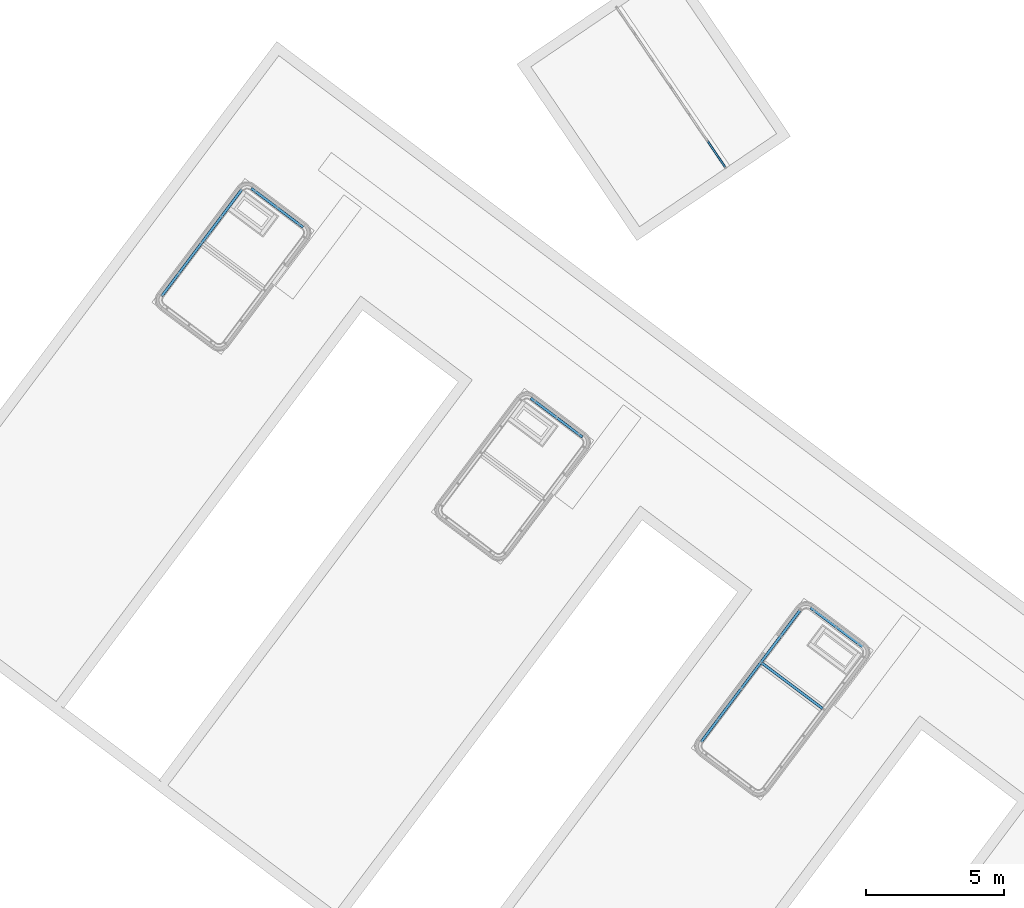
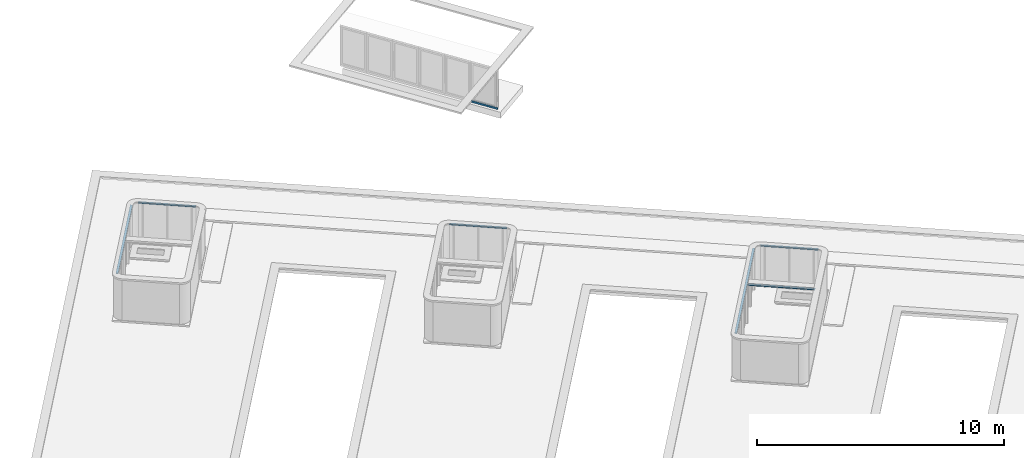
# One storey, part 17 of 28: 6 beams, 1 member, 1 element without a shape of its own.
"""IFC2X3 building model written with IfcOpenShell, lengths in metres."""

import ifcopenshell
import ifcopenshell.guid

model = None  # the IFC model being written
_history = None  # IfcOwnerHistory: only IFC2X3 demands one
_inside = {}  # id of a spatial element -> (the spatial element, [elements in it])
_under = {}  # id of a project, library or spatial element -> (it, [spatial elements below it])
_declared = {}  # id of a project -> (the project, [libraries it declares])
_typed = {}  # id of a type object -> (the type object, [elements of that type])
_made_of = {}  # id of a material, layer set ... -> (it, [elements and type objects made of it])


def new_model(schema):
    """Start an empty IFC model of exactly this schema.

    Asked for "IFC4X3", IfcOpenShell would pick the latest addendum, in which some entities
    have other attributes; the version numbers below select the first issue.
    IFC2X3 requires an IfcOwnerHistory on every rooted entity: one is made here for all.
    """
    global model, _history
    if schema == "IFC4X3":
        model = ifcopenshell.file(schema_version=(4, 3, 0, 0))
    else:
        model = ifcopenshell.file(schema=schema)
    _inside.clear()
    _under.clear()
    _declared.clear()
    _typed.clear()
    _made_of.clear()
    _history = None
    if model.schema == "IFC2X3":
        org = make("IfcOrganization", Name="unknown")
        user = make(
            "IfcPersonAndOrganization",
            ThePerson=make("IfcPerson", FamilyName="unknown"),
            TheOrganization=org,
        )
        app = make(
            "IfcApplication",
            ApplicationDeveloper=org,
            Version="unknown",
            ApplicationFullName="unknown",
            ApplicationIdentifier="unknown",
        )
        _history = make(
            "IfcOwnerHistory",
            OwningUser=user,
            OwningApplication=app,
            ChangeAction="ADDED",
            CreationDate=0,
        )
    return model


def make(cls, **values):
    """One entity of the class cls with the attributes given. An attribute that is None is left unset."""
    return model.create_entity(
        cls, **{name: value for name, value in values.items() if value is not None}
    )


def entity(cls, *values):
    """Any entity or typed value of the class cls, its attributes in the order of the schema. None: left unset."""
    e = model.create_entity(cls)
    for i, value in enumerate(values):
        if value is not None:
            e[i] = value
    return e


def rooted(cls, **values):
    """An entity with a GlobalId (a new one), such as an element, a storey or a relation."""
    return make(cls, GlobalId=ifcopenshell.guid.new(), OwnerHistory=_history, **values)


def si_unit(unit_type, name, prefix=None):
    """IfcSIUnit, for example si_unit("LENGTHUNIT", "METRE", prefix="MILLI")."""
    return make("IfcSIUnit", UnitType=unit_type, Prefix=prefix, Name=name)


def converted_unit(unit_type, name, factor, base, dimensions=None, offset=None):
    """IfcConversionBasedUnit, such as the inch: factor (a typed value) times the base unit."""
    return make(
        "IfcConversionBasedUnit"
        if offset is None
        else "IfcConversionBasedUnitWithOffset",
        ConversionOffset=offset,
        Dimensions=None
        if dimensions is None
        else entity("IfcDimensionalExponents", *dimensions),
        UnitType=unit_type,
        Name=name,
        ConversionFactor=make(
            "IfcMeasureWithUnit", ValueComponent=factor, UnitComponent=base
        ),
    )


def derived_unit(unit_type, elements):
    """IfcDerivedUnit: a product of units, each with its exponent."""
    return make(
        "IfcDerivedUnit",
        Elements=[
            make("IfcDerivedUnitElement", Unit=unit, Exponent=power)
            for unit, power in elements
        ],
        UnitType=unit_type,
    )


def assignment(units):
    """IfcUnitAssignment: the units of a project."""
    return None if units is None else make("IfcUnitAssignment", Units=units)


def point(xyz):
    """IfcCartesianPoint."""
    return None if xyz is None else make("IfcCartesianPoint", Coordinates=xyz)


def direction(xyz):
    """IfcDirection."""
    return None if xyz is None else make("IfcDirection", DirectionRatios=xyz)


def frame(location, z_axis=None, x_axis=None):
    """IfcAxis2Placement3D, a coordinate frame: its origin and axes. An axis left out is left unset."""
    return make(
        "IfcAxis2Placement3D",
        Location=point(location),
        Axis=direction(z_axis),
        RefDirection=direction(x_axis),
    )


def frame_2d(location, x_axis=None):
    """IfcAxis2Placement2D, a coordinate frame in the plane: its origin and x axis."""
    return make(
        "IfcAxis2Placement2D", Location=point(location), RefDirection=direction(x_axis)
    )


def origin():
    """The frame at (0, 0, 0) with its axes left unset."""
    return frame((0.0, 0.0, 0.0))


def origin_2d_with_axis():
    """The frame at (0, 0) in the plane with the x axis (1, 0) written out."""
    return frame_2d((0.0, 0.0), x_axis=(1.0, 0.0))


def place(relative_to, where):
    """IfcLocalPlacement: puts the frame where relative to a parent placement (None: the world)."""
    return make(
        "IfcLocalPlacement", PlacementRelTo=relative_to, RelativePlacement=where
    )


def context(
    kind, dimensions, precision=None, world=None, true_north=None, identifier=None
):
    """IfcGeometricRepresentationContext, for example the 3D "Model" context."""
    return make(
        "IfcGeometricRepresentationContext",
        ContextIdentifier=identifier,
        ContextType=kind,
        CoordinateSpaceDimension=dimensions,
        Precision=precision,
        WorldCoordinateSystem=world,
        TrueNorth=true_north,
    )


def subcontext(parent, identifier, kind, view, scale=None):
    """IfcGeometricRepresentationSubContext, for example "Body" below "Model"."""
    return make(
        "IfcGeometricRepresentationSubContext",
        ContextIdentifier=identifier,
        ContextType=kind,
        ParentContext=parent,
        TargetScale=scale,
        TargetView=view,
    )


def project(units=None, contexts=None):
    """IfcProject with its units and contexts."""
    return rooted(
        "IfcProject",
        Name="project",
        RepresentationContexts=contexts,
        UnitsInContext=assignment(units),
    )


def spatial(cls, under=None, at=None, **own):
    """A site, building, storey or space (cls), placed at a placement, below another one or the project."""
    s = rooted(cls, ObjectPlacement=at, **own)
    if under is not None:
        _under.setdefault(under.id(), (under, []))[1].append(s)
    return s


def polyline(points):
    """IfcPolyline through the points."""
    return make("IfcPolyline", Points=[point(p) for p in points])


def circle_curve(where, radius):
    """IfcCircle in the frame where."""
    return make("IfcCircle", Position=where, Radius=radius)


def parameter(value):
    """IfcParameterValue: where a trimmed curve begins or ends, as a parameter of its basis curve."""
    return model.create_entity("IfcParameterValue", value)


def trimmed(basis, trim1, trim2, sense, master):
    """IfcTrimmedCurve: the piece of a basis curve between two trims."""
    return make(
        "IfcTrimmedCurve",
        BasisCurve=basis,
        Trim1=trim1,
        Trim2=trim2,
        SenseAgreement=sense,
        MasterRepresentation=master,
    )


def segment(curve, same_sense, transition):
    """IfcCompositeCurveSegment."""
    return make(
        "IfcCompositeCurveSegment",
        Transition=transition,
        SameSense=same_sense,
        ParentCurve=curve,
    )


def composite_curve(segments, self_intersect=None):
    """IfcCompositeCurve: segments joined end to end."""
    return make("IfcCompositeCurve", Segments=segments, SelfIntersect=self_intersect)


def profile(cls, at=None, kind="AREA", **sizes):
    """A parametric profile (cls). Its sizes go by their IFC names, for example OverallWidth=200.0."""
    return make(cls, ProfileType=kind, Position=at, **sizes)


def rectangle(**sizes):
    """IfcRectangleProfileDef."""
    return profile("IfcRectangleProfileDef", **sizes)


def outline(outer, holes=None, kind="AREA"):
    """IfcArbitraryClosedProfileDef: a profile drawn as a closed curve; with holes, ...WithVoids."""
    if holes is None:
        return make("IfcArbitraryClosedProfileDef", ProfileType=kind, OuterCurve=outer)
    return make(
        "IfcArbitraryProfileDefWithVoids",
        ProfileType=kind,
        OuterCurve=outer,
        InnerCurves=holes,
    )


def extrude(swept, where, along, depth):
    """IfcExtrudedAreaSolid: the profile swept, set in the frame where, extruded along a direction by depth."""
    return make(
        "IfcExtrudedAreaSolid",
        SweptArea=swept,
        Position=where,
        ExtrudedDirection=direction(along),
        Depth=depth,
    )


def shape(context_of_items, identifier, shape_type, items):
    """IfcShapeRepresentation: the items that make up one representation, for example the "Body"."""
    return make(
        "IfcShapeRepresentation",
        ContextOfItems=context_of_items,
        RepresentationIdentifier=identifier,
        RepresentationType=shape_type,
        Items=items,
    )


def source(mapping_origin, context_of_items, identifier, shape_type, items):
    """IfcRepresentationMap: a shape defined once, which mapped items show again and again."""
    return make(
        "IfcRepresentationMap",
        MappingOrigin=mapping_origin,
        MappedRepresentation=shape(context_of_items, identifier, shape_type, items),
    )


def transform(
    local_origin,
    x_axis=None,
    y_axis=None,
    z_axis=None,
    scale=None,
    scale2=None,
    scale3=None,
    uniform=True,
):
    """IfcCartesianTransformationOperator3D, or its non-uniform kind. x_axis, y_axis, z_axis: its Axis1, 2, 3."""
    if uniform:
        return make(
            "IfcCartesianTransformationOperator3D",
            Axis1=direction(x_axis),
            Axis2=direction(y_axis),
            LocalOrigin=point(local_origin),
            Scale=scale,
            Axis3=direction(z_axis),
        )
    return make(
        "IfcCartesianTransformationOperator3DnonUniform",
        Axis1=direction(x_axis),
        Axis2=direction(y_axis),
        LocalOrigin=point(local_origin),
        Scale=scale,
        Axis3=direction(z_axis),
        Scale2=scale2,
        Scale3=scale3,
    )


def mapped(mapping_source, mapping_target):
    """IfcMappedItem: shows the shape of a source again, moved by a transform."""
    return make(
        "IfcMappedItem", MappingSource=mapping_source, MappingTarget=mapping_target
    )


def material(Name=None, Category=None):
    """IfcMaterial."""
    return make("IfcMaterial", Name=Name, Category=Category)


def made_of(thing, what):
    """Note that an element or type object is made of a material, layer set ...; save() writes the relation."""
    if what is not None:
        _made_of.setdefault(what.id(), (what, []))[1].append(thing)
    return thing


def type_object(cls, material=None, **own):
    """A type object (cls), such as IfcWallType, which elements share."""
    return made_of(rooted(cls, **own), material)


def type_shapes(of_type, sources):
    """Give a type object the sources (RepresentationMaps) that its elements show as mapped items."""
    of_type.RepresentationMaps = sources


def element(
    cls,
    number,
    at=None,
    inside=None,
    cuts=None,
    type_object=None,
    material=None,
    context=None,
    identifier="Body",
    shape_type=None,
    held_by="IfcProductDefinitionShape",
    body=None,
    shapes=None,
    **own,
):
    """One element of the class cls, such as IfcWall. Its Tag is "e" and its number.

    at: its placement. inside: the storey or other place that contains it. cuts: it is an
    opening in that element (IfcRelVoidsElement). A single representation is given by context,
    identifier, shape_type and body (its items); several are given by shapes. held_by: the class
    of the entity that holds the representations. save() writes the other relations.
    """
    e = rooted(cls, Tag="e%d" % number, ObjectPlacement=at, **own)
    if body is not None:
        shapes = [shape(context, identifier, shape_type, body)]
    if shapes is not None:
        e.Representation = make(held_by, Representations=shapes)
    if inside is not None:
        _inside.setdefault(inside.id(), (inside, []))[1].append(e)
    if cuts is not None:
        rooted(
            "IfcRelVoidsElement", RelatingBuildingElement=cuts, RelatedOpeningElement=e
        )
    if type_object is not None:
        _typed.setdefault(type_object.id(), (type_object, []))[1].append(e)
    return made_of(e, material)


def aggregate(whole, parts):
    """IfcRelAggregates: a whole, such as a stair, and the parts it consists of."""
    return rooted("IfcRelAggregates", RelatingObject=whole, RelatedObjects=parts)


def save(model, path):
    """Write the relations noted so far, then the file.

    IfcRelAggregates (storeys below a building ...), IfcRelContainedInSpatialStructure (elements
    in a storey), IfcRelDefinesByType, IfcRelAssociatesMaterial and IfcRelDeclares: one each for
    every whole, place, type object, material and project.
    """
    for whole, parts in _under.values():
        aggregate(whole, parts)
    for where, things in _inside.values():
        rooted(
            "IfcRelContainedInSpatialStructure",
            RelatedElements=things,
            RelatingStructure=where,
        )
    for kind, things in _typed.values():
        rooted("IfcRelDefinesByType", RelatedObjects=things, RelatingType=kind)
    for what, things in _made_of.values():
        rooted("IfcRelAssociatesMaterial", RelatedObjects=things, RelatingMaterial=what)
    for by, libraries in _declared.values():
        rooted("IfcRelDeclares", RelatingContext=by, RelatedDefinitions=libraries)
    model.write(path)


model = new_model("IFC2X3")

# Units and contexts
model_context = context("Model", 3, precision=1e-05, world=origin(), true_north=direction((6.123031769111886e-17, 1.0)))
body_context = subcontext(model_context, "Body", "Model", "MODEL_VIEW")
ifc_project = project(units=[si_unit("LENGTHUNIT", "METRE"), si_unit("AREAUNIT", "SQUARE_METRE"), si_unit("VOLUMEUNIT", "CUBIC_METRE"), converted_unit("PLANEANGLEUNIT", "DEGREE", entity("IfcRatioMeasure", 0.017453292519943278), si_unit("PLANEANGLEUNIT", "RADIAN"), dimensions=[0, 0, 0, 0, 0, 0, 0]), si_unit("MASSUNIT", "GRAM", prefix="KILO"), derived_unit("MASSDENSITYUNIT", [(si_unit("MASSUNIT", "GRAM", prefix="KILO"), 1), (si_unit("LENGTHUNIT", "METRE"), -3)]), derived_unit("IONCONCENTRATIONUNIT", [(si_unit("MASSUNIT", "GRAM", prefix="KILO"), 1), (si_unit("LENGTHUNIT", "METRE"), -3)]), derived_unit("MOMENTOFINERTIAUNIT", [(si_unit("LENGTHUNIT", "METRE"), 4)]), si_unit("TIMEUNIT", "SECOND"), si_unit("FREQUENCYUNIT", "HERTZ"), si_unit("THERMODYNAMICTEMPERATUREUNIT", "DEGREE_CELSIUS"), derived_unit("THERMALTRANSMITTANCEUNIT", [(si_unit("MASSUNIT", "GRAM", prefix="KILO"), 1), (si_unit("THERMODYNAMICTEMPERATUREUNIT", "KELVIN"), -1), (si_unit("TIMEUNIT", "SECOND"), -3)]), derived_unit("THERMALCONDUCTANCEUNIT", [(si_unit("MASSUNIT", "GRAM", prefix="KILO"), 1), (si_unit("THERMODYNAMICTEMPERATUREUNIT", "KELVIN"), -1), (si_unit("TIMEUNIT", "SECOND"), -3), (si_unit("LENGTHUNIT", "METRE"), 1)]), derived_unit("VOLUMETRICFLOWRATEUNIT", [(si_unit("LENGTHUNIT", "METRE"), 3), (si_unit("TIMEUNIT", "SECOND"), -1)]), derived_unit("MASSFLOWRATEUNIT", [(si_unit("MASSUNIT", "GRAM", prefix="KILO"), 1), (si_unit("TIMEUNIT", "SECOND"), -1)]), derived_unit("ROTATIONALFREQUENCYUNIT", [(si_unit("TIMEUNIT", "SECOND"), -1)]), si_unit("ELECTRICCURRENTUNIT", "AMPERE"), si_unit("ELECTRICVOLTAGEUNIT", "VOLT"), si_unit("POWERUNIT", "WATT"), si_unit("FORCEUNIT", "NEWTON", prefix="KILO"), si_unit("ILLUMINANCEUNIT", "LUX"), si_unit("LUMINOUSFLUXUNIT", "LUMEN"), si_unit("LUMINOUSINTENSITYUNIT", "CANDELA"), derived_unit("USERDEFINED", [(si_unit("MASSUNIT", "GRAM", prefix="KILO"), -1), (si_unit("LENGTHUNIT", "METRE"), -2), (si_unit("TIMEUNIT", "SECOND"), 3), (si_unit("LUMINOUSFLUXUNIT", "LUMEN"), 1)]), derived_unit("USERDEFINED", [(si_unit("MASSUNIT", "GRAM", prefix="KILO"), 1), (si_unit("TIMEUNIT", "SECOND"), -3), (si_unit("LENGTHUNIT", "METRE"), 3), (si_unit("ELECTRICCURRENTUNIT", "AMPERE"), -2)]), derived_unit("SOUNDPOWERUNIT", [(si_unit("MASSUNIT", "GRAM", prefix="KILO"), 1), (si_unit("TIMEUNIT", "SECOND"), -3), (si_unit("LENGTHUNIT", "METRE"), 2)]), derived_unit("SOUNDPRESSUREUNIT", [(si_unit("MASSUNIT", "GRAM", prefix="KILO"), 1), (si_unit("LENGTHUNIT", "METRE"), -1), (si_unit("TIMEUNIT", "SECOND"), -2)]), derived_unit("LINEARVELOCITYUNIT", [(si_unit("LENGTHUNIT", "METRE"), 1), (si_unit("TIMEUNIT", "SECOND"), -1)]), si_unit("PRESSUREUNIT", "PASCAL"), derived_unit("USERDEFINED", [(si_unit("MASSUNIT", "GRAM", prefix="KILO"), 1), (si_unit("LENGTHUNIT", "METRE"), -2), (si_unit("TIMEUNIT", "SECOND"), -2)]), derived_unit("LINEARFORCEUNIT", [(si_unit("MASSUNIT", "GRAM", prefix="KILO"), 1), (si_unit("TIMEUNIT", "SECOND"), -2)]), derived_unit("PLANARFORCEUNIT", [(si_unit("MASSUNIT", "GRAM", prefix="KILO"), 1), (si_unit("LENGTHUNIT", "METRE"), -1), (si_unit("TIMEUNIT", "SECOND"), -2)]), derived_unit("SPECIFICHEATCAPACITYUNIT", [(si_unit("THERMODYNAMICTEMPERATUREUNIT", "KELVIN"), -1), (si_unit("LENGTHUNIT", "METRE"), 2), (si_unit("TIMEUNIT", "SECOND"), -2)]), derived_unit("HEATINGVALUEUNIT", [(si_unit("LENGTHUNIT", "METRE"), 2), (si_unit("TIMEUNIT", "SECOND"), -2)]), derived_unit("VAPORPERMEABILITYUNIT", [(si_unit("LENGTHUNIT", "METRE"), -1), (si_unit("TIMEUNIT", "SECOND"), 1)]), derived_unit("DYNAMICVISCOSITYUNIT", [(si_unit("MASSUNIT", "GRAM", prefix="KILO"), 1), (si_unit("TIMEUNIT", "SECOND"), -1), (si_unit("LENGTHUNIT", "METRE"), -1)]), derived_unit("THERMALEXPANSIONCOEFFICIENTUNIT", [(si_unit("THERMODYNAMICTEMPERATUREUNIT", "KELVIN"), -1)]), derived_unit("MODULUSOFELASTICITYUNIT", [(si_unit("MASSUNIT", "GRAM", prefix="KILO"), 1), (si_unit("LENGTHUNIT", "METRE"), -1), (si_unit("TIMEUNIT", "SECOND"), -2)]), derived_unit("ISOTHERMALMOISTURECAPACITYUNIT", [(si_unit("LENGTHUNIT", "METRE"), 3), (si_unit("MASSUNIT", "GRAM", prefix="KILO"), -1)]), derived_unit("MOISTUREDIFFUSIVITYUNIT", [(si_unit("TIMEUNIT", "SECOND"), -1), (si_unit("LENGTHUNIT", "METRE"), 2)])], contexts=[model_context])

# Site, building, storey
site_placement = place(None, frame((0.0, 0.0, 235.0), z_axis=(0.0, 0.0, 1.0), x_axis=(-0.7996477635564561, 0.6004693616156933, 0.0)))
site = spatial("IfcSite", under=ifc_project, at=site_placement, Name="Default", CompositionType="ELEMENT")
building_placement = place(site_placement, origin())
building = spatial("IfcBuilding", under=site, at=building_placement, CompositionType="ELEMENT")
storey_placement = place(building_placement, frame((0.0, 0.0, 3.400000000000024)))
storey = spatial("IfcBuildingStorey", under=building, at=storey_placement, Name="PC- Coberta STR", CompositionType="ELEMENT", Elevation=3.400000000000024)

# Curtain wall, member
curtain_wall_type = type_object("IfcCurtainWallType", Name="Muro cortina:MC- EXT- MC8- Biblio", PredefinedType="NOTDEFINED")
curtain_wall_placement = place(storey_placement, frame((0.0, 0.0, -3.400000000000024)))
curtain_wall = element("IfcCurtainWall", 1, at=curtain_wall_placement, inside=storey, type_object=curtain_wall_type, Name="Muro cortina:MC- EXT- MC8- Biblio", ObjectType="Muro cortina:MC- EXT- MC8- Biblio")
ifc_material_1 = material(Name="_Alumini- T1- Perfil")
member_type = type_object("IfcMemberType", Name="Montante rectangular:MC- Alu- 52x80 cm- Fa pista- inferior", PredefinedType="MULLION", material=ifc_material_1)
shared_shape = source(origin(), body_context, "Body", "SweptSolid", [
    extrude(rectangle(XDim=0.06000000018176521, YDim=0.085, at=origin_2d_with_axis()), frame((-0.0425, -0.030000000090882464, -1.1999999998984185), z_axis=(0.0, 0.0, 1.0), x_axis=(0.0, -1.0, 0.0)), (0.0, 0.0, 1.0), 1.1999999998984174),
])
type_shapes(member_type, [shared_shape])
member_placement = place(curtain_wall_placement, frame((58.94741241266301, -48.51196922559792, 3.950000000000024), z_axis=(-0.9460037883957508, 0.3241555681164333, 0.0), x_axis=(0.0, 0.0, -1.0)))
member = element("IfcMember", 2, at=member_placement, type_object=member_type, material=ifc_material_1, Name="Montante rectangular:MC- Alu- 52x80 cm- Fa pista- inferior", ObjectType="Montante rectangular:MC- Alu- 52x80 cm- Fa pista- inferior", context=body_context, shape_type="MappedRepresentation", body=[
    mapped(shared_shape, transform((0.0, 0.0, 0.0), scale=1.0)),
])
aggregate(curtain_wall, [member])

# Beams
ifc_material_2 = material(Name="Metal - Acero - 345 MPa")
beam_type = type_object("IfcBeamType", Name="STR- V- Acer- RHS- Rectangular- T1:100x50RHS", PredefinedType="NOTDEFINED")
beam_1_placement = place(storey_placement, frame((57.259195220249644, -37.59678699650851, 2.451595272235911), z_axis=(0.0, 0.0, 1.0), x_axis=(-1.0, 0.0, 0.0)))
element("IfcBeam", 3, at=beam_1_placement, inside=storey, type_object=beam_type, material=ifc_material_2, Name="STR- V- Acer- RHS- Rectangular- T1:100x50RHS", ObjectType="STR- V- Acer- RHS- Rectangular- T1:100x50RHS", context=body_context, shape_type="SweptSolid", body=[
    extrude(outline(composite_curve([segment(trimmed(circle_curve(frame_2d((-0.019000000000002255, -0.04399999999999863), x_axis=(1.0, 0.0)), 0.006), [parameter(180.0000000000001)], [parameter(269.99999999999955)], True, "PARAMETER"), True, "CONTINUOUS"), segment(polyline([(-0.0190000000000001, -0.04999999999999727), (0.018999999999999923, -0.04999999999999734)]), True, "CONTINUOUS"), segment(trimmed(circle_curve(frame_2d((0.018999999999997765, -0.0439999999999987), x_axis=(1.0, 0.0)), 0.006), [parameter(269.99999999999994)], [parameter(1.0177774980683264e-13)], True, "PARAMETER"), True, "CONTINUOUS"), segment(polyline([(0.02499999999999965, -0.04399999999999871), (0.02499999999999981, 0.04400000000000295)]), True, "CONTINUOUS"), segment(trimmed(circle_curve(frame_2d((0.018999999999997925, 0.04400000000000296), x_axis=(1.0, 0.0)), 0.006), [parameter(359.9999999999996)], [parameter(89.99999999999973)], True, "PARAMETER"), True, "CONTINUOUS"), segment(polyline([(0.019000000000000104, 0.05000000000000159), (-0.019000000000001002, 0.05000000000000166)]), True, "CONTINUOUS"), segment(trimmed(circle_curve(frame_2d((-0.019000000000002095, 0.04400000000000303), x_axis=(1.0, 0.0)), 0.006), [parameter(90.00000000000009)], [parameter(180.00000000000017)], True, "PARAMETER"), True, "CONTINUOUS"), segment(polyline([(-0.025000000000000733, 0.04400000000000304), (-0.025000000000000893, -0.043999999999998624)]), True, "CONTINUOUS")], self_intersect=False), holes=[composite_curve([segment(polyline([(0.01899999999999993, -0.046999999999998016), (-0.019000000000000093, -0.046999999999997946)]), True, "CONTINUOUS"), segment(trimmed(circle_curve(frame_2d((-0.019000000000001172, -0.04399999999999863), x_axis=(1.0, 0.0)), 0.003), [parameter(179.99999999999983)], [parameter(269.9999999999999)], True, "PARAMETER"), False, "CONTINUOUS"), segment(polyline([(-0.022000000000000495, -0.043999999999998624), (-0.022000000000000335, 0.04399999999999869)]), True, "CONTINUOUS"), segment(trimmed(circle_curve(frame_2d((-0.019000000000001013, 0.043999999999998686), x_axis=(1.0, 0.0)), 0.003), [parameter(90.00000000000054)], [parameter(180.0000000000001)], True, "PARAMETER"), False, "CONTINUOUS"), segment(polyline([(-0.018999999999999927, 0.04700000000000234), (0.018999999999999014, 0.04700000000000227)]), True, "CONTINUOUS"), segment(trimmed(circle_curve(frame_2d((0.018999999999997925, 0.04399999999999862), x_axis=(1.0, 0.0)), 0.003), [parameter(0.0)], [parameter(90.00000000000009)], True, "PARAMETER"), False, "CONTINUOUS"), segment(polyline([(0.021999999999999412, 0.04399999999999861), (0.021999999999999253, -0.04399999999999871)]), True, "CONTINUOUS"), segment(trimmed(circle_curve(frame_2d((0.018999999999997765, -0.0439999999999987), x_axis=(1.0, 0.0)), 0.003), [parameter(270.00000000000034)], [parameter(5.088887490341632e-13)], True, "PARAMETER"), False, "CONTINUOUS")], self_intersect=False)]), frame((-2.3508866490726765, -0.05159527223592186, -0.026595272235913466), z_axis=(1.0, 0.0, 0.0), x_axis=(0.0, 0.0, 1.0)), (0.0, 0.0, 1.0), 2.350886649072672),
])
beam_2_placement = place(storey_placement, frame((72.50859017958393, -37.30519175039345, 2.3984047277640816), z_axis=(0.0, 0.0, 1.0), x_axis=(0.0, 1.0, 0.0)))
element("IfcBeam", 4, at=beam_2_placement, inside=storey, type_object=beam_type, material=ifc_material_2, Name="STR- V- Acer- RHS- Rectangular- T1:100x50RHS", ObjectType="STR- V- Acer- RHS- Rectangular- T1:100x50RHS", context=body_context, shape_type="SweptSolid", body=[
    extrude(outline(composite_curve([segment(trimmed(circle_curve(frame_2d((-0.019000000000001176, -0.04399999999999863), x_axis=(1.0, 0.0)), 0.006), [parameter(180.0000000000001)], [parameter(269.99999999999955)], True, "PARAMETER"), True, "CONTINUOUS"), segment(polyline([(-0.0190000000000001, -0.04999999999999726), (0.01899999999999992, -0.04999999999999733)]), True, "CONTINUOUS"), segment(trimmed(circle_curve(frame_2d((0.018999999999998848, -0.0439999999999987), x_axis=(1.0, 0.0)), 0.006), [parameter(269.99999999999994)], [parameter(1.0177774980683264e-13)], True, "PARAMETER"), True, "CONTINUOUS"), segment(polyline([(0.02499999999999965, -0.04399999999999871), (0.02499999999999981, 0.04400000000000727)]), True, "CONTINUOUS"), segment(trimmed(circle_curve(frame_2d((0.018999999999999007, 0.044000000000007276), x_axis=(1.0, 0.0)), 0.006), [parameter(359.9999999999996)], [parameter(89.99999999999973)], True, "PARAMETER"), True, "CONTINUOUS"), segment(polyline([(0.0190000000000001, 0.05000000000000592), (-0.019000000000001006, 0.05000000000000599)]), True, "CONTINUOUS"), segment(trimmed(circle_curve(frame_2d((-0.019000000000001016, 0.044000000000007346), x_axis=(1.0, 0.0)), 0.006), [parameter(90.00000000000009)], [parameter(180.00000000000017)], True, "PARAMETER"), True, "CONTINUOUS"), segment(polyline([(-0.025000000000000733, 0.04400000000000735), (-0.025000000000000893, -0.043999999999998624)]), True, "CONTINUOUS")], self_intersect=False), holes=[composite_curve([segment(polyline([(0.018999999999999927, -0.046999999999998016), (-0.019000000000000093, -0.046999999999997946)]), True, "CONTINUOUS"), segment(trimmed(circle_curve(frame_2d((-0.01900000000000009, -0.04399999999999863), x_axis=(1.0, 0.0)), 0.003), [parameter(179.99999999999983)], [parameter(269.9999999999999)], True, "PARAMETER"), False, "CONTINUOUS"), segment(polyline([(-0.02200000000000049, -0.043999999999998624), (-0.022000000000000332, 0.04400000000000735)]), True, "CONTINUOUS"), segment(trimmed(circle_curve(frame_2d((-0.01899999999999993, 0.044000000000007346), x_axis=(1.0, 0.0)), 0.003), [parameter(90.00000000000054)], [parameter(180.0000000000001)], True, "PARAMETER"), False, "CONTINUOUS"), segment(polyline([(-0.018999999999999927, 0.04700000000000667), (0.01899999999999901, 0.0470000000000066)]), True, "CONTINUOUS"), segment(trimmed(circle_curve(frame_2d((0.018999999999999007, 0.044000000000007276), x_axis=(1.0, 0.0)), 0.003), [parameter(0.0)], [parameter(90.00000000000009)], True, "PARAMETER"), False, "CONTINUOUS"), segment(polyline([(0.021999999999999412, 0.04400000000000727), (0.021999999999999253, -0.04399999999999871)]), True, "CONTINUOUS"), segment(trimmed(circle_curve(frame_2d((0.018999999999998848, -0.0439999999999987), x_axis=(1.0, 0.0)), 0.003), [parameter(270.00000000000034)], [parameter(5.088887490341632e-13)], True, "PARAMETER"), False, "CONTINUOUS")], self_intersect=False)]), frame((0.0, -0.05159527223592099, 0.02659527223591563), z_axis=(1.0, 0.0, 0.0), x_axis=(0.0, 0.0, 1.0)), (0.0, 0.0, 1.0), 4.846999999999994),
])
beam_3_placement = place(storey_placement, frame((69.95919522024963, -37.59678699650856, 2.451595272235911), z_axis=(0.0, 0.0, 1.0), x_axis=(-1.0, 0.0, 0.0)))
element("IfcBeam", 5, at=beam_3_placement, inside=storey, type_object=beam_type, material=ifc_material_2, Name="STR- V- Acer- RHS- Rectangular- T1:100x50RHS", ObjectType="STR- V- Acer- RHS- Rectangular- T1:100x50RHS", context=body_context, shape_type="SweptSolid", body=[
    extrude(outline(composite_curve([segment(trimmed(circle_curve(frame_2d((-0.019000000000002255, -0.04400000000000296), x_axis=(1.0, 0.0)), 0.006), [parameter(180.0000000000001)], [parameter(269.99999999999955)], True, "PARAMETER"), True, "CONTINUOUS"), segment(polyline([(-0.0190000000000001, -0.05000000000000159), (0.018999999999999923, -0.05000000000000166)]), True, "CONTINUOUS"), segment(trimmed(circle_curve(frame_2d((0.018999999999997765, -0.04400000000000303), x_axis=(1.0, 0.0)), 0.006), [parameter(269.99999999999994)], [parameter(1.0177774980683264e-13)], True, "PARAMETER"), True, "CONTINUOUS"), segment(polyline([(0.02499999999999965, -0.04400000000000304), (0.02499999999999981, 0.043999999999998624)]), True, "CONTINUOUS"), segment(trimmed(circle_curve(frame_2d((0.018999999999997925, 0.04399999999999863), x_axis=(1.0, 0.0)), 0.006), [parameter(359.9999999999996)], [parameter(89.99999999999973)], True, "PARAMETER"), True, "CONTINUOUS"), segment(polyline([(0.019000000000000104, 0.04999999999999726), (-0.019000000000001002, 0.04999999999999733)]), True, "CONTINUOUS"), segment(trimmed(circle_curve(frame_2d((-0.019000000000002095, 0.0439999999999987), x_axis=(1.0, 0.0)), 0.006), [parameter(90.00000000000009)], [parameter(180.00000000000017)], True, "PARAMETER"), True, "CONTINUOUS"), segment(polyline([(-0.025000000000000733, 0.04399999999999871), (-0.025000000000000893, -0.04400000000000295)]), True, "CONTINUOUS")], self_intersect=False), holes=[composite_curve([segment(polyline([(0.01899999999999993, -0.047000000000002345), (-0.019000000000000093, -0.047000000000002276)]), True, "CONTINUOUS"), segment(trimmed(circle_curve(frame_2d((-0.019000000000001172, -0.04400000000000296), x_axis=(1.0, 0.0)), 0.003), [parameter(179.99999999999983)], [parameter(269.9999999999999)], True, "PARAMETER"), False, "CONTINUOUS"), segment(polyline([(-0.022000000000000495, -0.04400000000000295), (-0.022000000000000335, 0.04399999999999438)]), True, "CONTINUOUS"), segment(trimmed(circle_curve(frame_2d((-0.019000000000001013, 0.04399999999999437), x_axis=(1.0, 0.0)), 0.003), [parameter(90.00000000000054)], [parameter(180.0000000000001)], True, "PARAMETER"), False, "CONTINUOUS"), segment(polyline([(-0.018999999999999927, 0.04699999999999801), (0.018999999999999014, 0.04699999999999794)]), True, "CONTINUOUS"), segment(trimmed(circle_curve(frame_2d((0.018999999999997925, 0.0439999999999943), x_axis=(1.0, 0.0)), 0.003), [parameter(0.0)], [parameter(90.00000000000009)], True, "PARAMETER"), False, "CONTINUOUS"), segment(polyline([(0.021999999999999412, 0.043999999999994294), (0.021999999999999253, -0.04400000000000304)]), True, "CONTINUOUS"), segment(trimmed(circle_curve(frame_2d((0.018999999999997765, -0.04400000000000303), x_axis=(1.0, 0.0)), 0.003), [parameter(270.00000000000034)], [parameter(5.088887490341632e-13)], True, "PARAMETER"), False, "CONTINUOUS")], self_intersect=False)]), frame((-2.3508866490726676, -0.05159527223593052, -0.026595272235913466), z_axis=(1.0, 0.0, 0.0), x_axis=(0.0, 0.0, 1.0)), (0.0, 0.0, 1.0), 2.350886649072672),
])
beam_4_placement = place(storey_placement, frame((47.10845085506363, -37.30919173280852, 2.398404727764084), z_axis=(0.0, 0.0, 1.0), x_axis=(0.0, 1.0, 0.0)))
element("IfcBeam", 6, at=beam_4_placement, inside=storey, type_object=beam_type, material=ifc_material_2, Name="STR- V- Acer- RHS- Rectangular- T1:100x50RHS", ObjectType="STR- V- Acer- RHS- Rectangular- T1:100x50RHS", context=body_context, shape_type="SweptSolid", body=[
    extrude(outline(composite_curve([segment(trimmed(circle_curve(frame_2d((-0.01900000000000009, -0.043999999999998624), x_axis=(1.0, 0.0)), 0.006), [parameter(180.0000000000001)], [parameter(269.99999999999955)], True, "PARAMETER"), True, "CONTINUOUS"), segment(polyline([(-0.018999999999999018, -0.04999999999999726), (0.019000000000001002, -0.04999999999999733)]), True, "CONTINUOUS"), segment(trimmed(circle_curve(frame_2d((0.01899999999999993, -0.04399999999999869), x_axis=(1.0, 0.0)), 0.006), [parameter(269.99999999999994)], [parameter(1.0177774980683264e-13)], True, "PARAMETER"), True, "CONTINUOUS"), segment(polyline([(0.025000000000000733, -0.0439999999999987), (0.025000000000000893, 0.04400000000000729)]), True, "CONTINUOUS"), segment(trimmed(circle_curve(frame_2d((0.01900000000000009, 0.0440000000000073), x_axis=(1.0, 0.0)), 0.006), [parameter(359.9999999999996)], [parameter(89.99999999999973)], True, "PARAMETER"), True, "CONTINUOUS"), segment(polyline([(0.019000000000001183, 0.05000000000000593), (-0.01899999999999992, 0.050000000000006)]), True, "CONTINUOUS"), segment(trimmed(circle_curve(frame_2d((-0.01899999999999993, 0.04400000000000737), x_axis=(1.0, 0.0)), 0.006), [parameter(90.00000000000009)], [parameter(180.00000000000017)], True, "PARAMETER"), True, "CONTINUOUS"), segment(polyline([(-0.02499999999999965, 0.044000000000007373), (-0.02499999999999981, -0.04399999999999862)]), True, "CONTINUOUS")], self_intersect=False), holes=[composite_curve([segment(polyline([(0.01900000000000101, -0.046999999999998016), (-0.01899999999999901, -0.046999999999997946)]), True, "CONTINUOUS"), segment(trimmed(circle_curve(frame_2d((-0.018999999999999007, -0.043999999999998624), x_axis=(1.0, 0.0)), 0.003), [parameter(179.99999999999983)], [parameter(269.9999999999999)], True, "PARAMETER"), False, "CONTINUOUS"), segment(polyline([(-0.02199999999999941, -0.04399999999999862), (-0.02199999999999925, 0.044000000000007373)]), True, "CONTINUOUS"), segment(trimmed(circle_curve(frame_2d((-0.018999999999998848, 0.04400000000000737), x_axis=(1.0, 0.0)), 0.003), [parameter(90.00000000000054)], [parameter(180.0000000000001)], True, "PARAMETER"), False, "CONTINUOUS"), segment(polyline([(-0.018999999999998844, 0.04700000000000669), (0.019000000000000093, 0.04700000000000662)]), True, "CONTINUOUS"), segment(trimmed(circle_curve(frame_2d((0.01900000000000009, 0.0440000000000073), x_axis=(1.0, 0.0)), 0.003), [parameter(0.0)], [parameter(90.00000000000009)], True, "PARAMETER"), False, "CONTINUOUS"), segment(polyline([(0.022000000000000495, 0.04400000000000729), (0.022000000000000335, -0.0439999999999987)]), True, "CONTINUOUS"), segment(trimmed(circle_curve(frame_2d((0.01899999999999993, -0.04399999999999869), x_axis=(1.0, 0.0)), 0.003), [parameter(270.00000000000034)], [parameter(5.088887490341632e-13)], True, "PARAMETER"), False, "CONTINUOUS")], self_intersect=False)]), frame((0.0, -0.05159527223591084, 0.02659527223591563), z_axis=(1.0, 0.0, 0.0), x_axis=(0.0, 0.0, 1.0)), (0.0, 0.0, 1.0), 6.036931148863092),
])
beam_5_placement = place(storey_placement, frame((44.54306542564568, -37.610855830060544, 2.4515952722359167), z_axis=(0.0, 0.0, 1.0), x_axis=(-1.0, 0.0, 0.0)))
element("IfcBeam", 7, at=beam_5_placement, inside=storey, type_object=beam_type, material=ifc_material_2, Name="STR- V- Acer- RHS- Rectangular- T1:100x50RHS", ObjectType="STR- V- Acer- RHS- Rectangular- T1:100x50RHS", context=body_context, shape_type="SweptSolid", body=[
    extrude(outline(composite_curve([segment(trimmed(circle_curve(frame_2d((-0.01900000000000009, -0.04400000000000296), x_axis=(1.0, 0.0)), 0.006), [parameter(180.0000000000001)], [parameter(269.99999999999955)], True, "PARAMETER"), True, "CONTINUOUS"), segment(polyline([(-0.018999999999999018, -0.05000000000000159), (0.019000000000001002, -0.05000000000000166)]), True, "CONTINUOUS"), segment(trimmed(circle_curve(frame_2d((0.01899999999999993, -0.04400000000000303), x_axis=(1.0, 0.0)), 0.006), [parameter(269.99999999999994)], [parameter(1.0177774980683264e-13)], True, "PARAMETER"), True, "CONTINUOUS"), segment(polyline([(0.025000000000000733, -0.04400000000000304), (0.025000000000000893, 0.04399999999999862)]), True, "CONTINUOUS"), segment(trimmed(circle_curve(frame_2d((0.01900000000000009, 0.043999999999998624), x_axis=(1.0, 0.0)), 0.006), [parameter(359.9999999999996)], [parameter(89.99999999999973)], True, "PARAMETER"), True, "CONTINUOUS"), segment(polyline([(0.019000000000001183, 0.049999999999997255), (-0.01899999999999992, 0.049999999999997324)]), True, "CONTINUOUS"), segment(trimmed(circle_curve(frame_2d((-0.01899999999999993, 0.04399999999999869), x_axis=(1.0, 0.0)), 0.006), [parameter(90.00000000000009)], [parameter(180.00000000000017)], True, "PARAMETER"), True, "CONTINUOUS"), segment(polyline([(-0.02499999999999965, 0.0439999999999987), (-0.02499999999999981, -0.04400000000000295)]), True, "CONTINUOUS")], self_intersect=False), holes=[composite_curve([segment(polyline([(0.01900000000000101, -0.047000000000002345), (-0.01899999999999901, -0.047000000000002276)]), True, "CONTINUOUS"), segment(trimmed(circle_curve(frame_2d((-0.018999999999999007, -0.04400000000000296), x_axis=(1.0, 0.0)), 0.003), [parameter(179.99999999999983)], [parameter(269.9999999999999)], True, "PARAMETER"), False, "CONTINUOUS"), segment(polyline([(-0.021999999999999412, -0.04400000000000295), (-0.021999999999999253, 0.04399999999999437)]), True, "CONTINUOUS"), segment(trimmed(circle_curve(frame_2d((-0.018999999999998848, 0.04399999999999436), x_axis=(1.0, 0.0)), 0.003), [parameter(90.00000000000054)], [parameter(180.0000000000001)], True, "PARAMETER"), False, "CONTINUOUS"), segment(polyline([(-0.018999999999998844, 0.046999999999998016), (0.019000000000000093, 0.046999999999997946)]), True, "CONTINUOUS"), segment(trimmed(circle_curve(frame_2d((0.01900000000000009, 0.043999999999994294), x_axis=(1.0, 0.0)), 0.003), [parameter(0.0)], [parameter(90.00000000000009)], True, "PARAMETER"), False, "CONTINUOUS"), segment(polyline([(0.02200000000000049, 0.04399999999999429), (0.022000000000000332, -0.04400000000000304)]), True, "CONTINUOUS"), segment(trimmed(circle_curve(frame_2d((0.01899999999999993, -0.04400000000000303), x_axis=(1.0, 0.0)), 0.003), [parameter(270.00000000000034)], [parameter(5.088887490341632e-13)], True, "PARAMETER"), False, "CONTINUOUS")], self_intersect=False)]), frame((-2.36688688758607, -0.05159527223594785, -0.026595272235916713), z_axis=(1.0, 0.0, 0.0), x_axis=(0.0, 0.0, 1.0)), (0.0, 0.0, 1.0), 2.366886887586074),
])
beam_6_placement = place(storey_placement, frame((44.360046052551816, -34.94585585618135, 2.2984047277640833)))
element("IfcBeam", 8, at=beam_6_placement, inside=storey, type_object=beam_type, material=ifc_material_2, Name="STR- V- Acer- RHS- Rectangular- T1:100x50RHS", ObjectType="STR- V- Acer- RHS- Rectangular- T1:100x50RHS", context=body_context, shape_type="SweptSolid", body=[
    extrude(outline(composite_curve([segment(polyline([(-0.044000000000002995, -0.02499999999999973), (0.043999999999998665, -0.02499999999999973)]), True, "CONTINUOUS"), segment(trimmed(circle_curve(frame_2d((0.043999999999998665, -0.01900000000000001), x_axis=(0.0, 1.0)), 0.006), [parameter(179.99999999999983)], [parameter(269.9999999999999)], True, "PARAMETER"), True, "CONTINUOUS"), segment(polyline([(0.0499999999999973, -0.01900000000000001), (0.0499999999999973, 0.0190000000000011)]), True, "CONTINUOUS"), segment(trimmed(circle_curve(frame_2d((0.043999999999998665, 0.01900000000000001), x_axis=(0.0, 1.0)), 0.006), [parameter(270.0000000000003)], [parameter(4.0711099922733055e-13)], True, "PARAMETER"), True, "CONTINUOUS"), segment(polyline([(0.043999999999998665, 0.025000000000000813), (-0.044000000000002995, 0.025000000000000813)]), True, "CONTINUOUS"), segment(trimmed(circle_curve(frame_2d((-0.044000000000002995, 0.01900000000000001), x_axis=(0.0, 1.0)), 0.006), [parameter(359.9999999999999)], [parameter(90.00000000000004)], True, "PARAMETER"), True, "CONTINUOUS"), segment(polyline([(-0.050000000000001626, 0.0190000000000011), (-0.050000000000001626, -0.018999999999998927)]), True, "CONTINUOUS"), segment(trimmed(circle_curve(frame_2d((-0.044000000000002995, -0.01900000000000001), x_axis=(0.0, 1.0)), 0.006), [parameter(90.00000000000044)], [parameter(179.9999999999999)], True, "PARAMETER"), True, "CONTINUOUS")], self_intersect=False), holes=[composite_curve([segment(trimmed(circle_curve(frame_2d((-0.044000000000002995, 0.01900000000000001), x_axis=(0.0, 1.0)), 0.003), [parameter(359.9999999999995)], [parameter(89.99999999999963)], True, "PARAMETER"), False, "CONTINUOUS"), segment(polyline([(-0.044000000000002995, 0.022000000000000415), (0.043999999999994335, 0.022000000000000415)]), True, "CONTINUOUS"), segment(trimmed(circle_curve(frame_2d((0.043999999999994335, 0.01900000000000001), x_axis=(0.0, 1.0)), 0.003), [parameter(269.9999999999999)], [parameter(0.0)], True, "PARAMETER"), False, "CONTINUOUS"), segment(polyline([(0.046999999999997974, 0.01900000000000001), (0.046999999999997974, -0.018999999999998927)]), True, "CONTINUOUS"), segment(trimmed(circle_curve(frame_2d((0.043999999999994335, -0.018999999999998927), x_axis=(0.0, 1.0)), 0.003), [parameter(179.9999999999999)], [parameter(269.99999999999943)], True, "PARAMETER"), False, "CONTINUOUS"), segment(polyline([(0.043999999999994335, -0.02199999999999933), (-0.044000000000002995, -0.02199999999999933)]), True, "CONTINUOUS"), segment(trimmed(circle_curve(frame_2d((-0.044000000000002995, -0.018999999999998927), x_axis=(0.0, 1.0)), 0.003), [parameter(90.00000000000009)], [parameter(180.00000000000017)], True, "PARAMETER"), False, "CONTINUOUS"), segment(polyline([(-0.04700000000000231, -0.018999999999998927), (-0.04700000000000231, 0.0190000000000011)]), True, "CONTINUOUS")], self_intersect=False)]), frame((0.0, 0.05159527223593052, 0.026595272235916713), z_axis=(1.0, 0.0, 0.0), x_axis=(0.0, 1.0, 0.0)), (0.0, 0.0, 1.0), 2.750000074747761),
])

save(model, "model.ifc")
